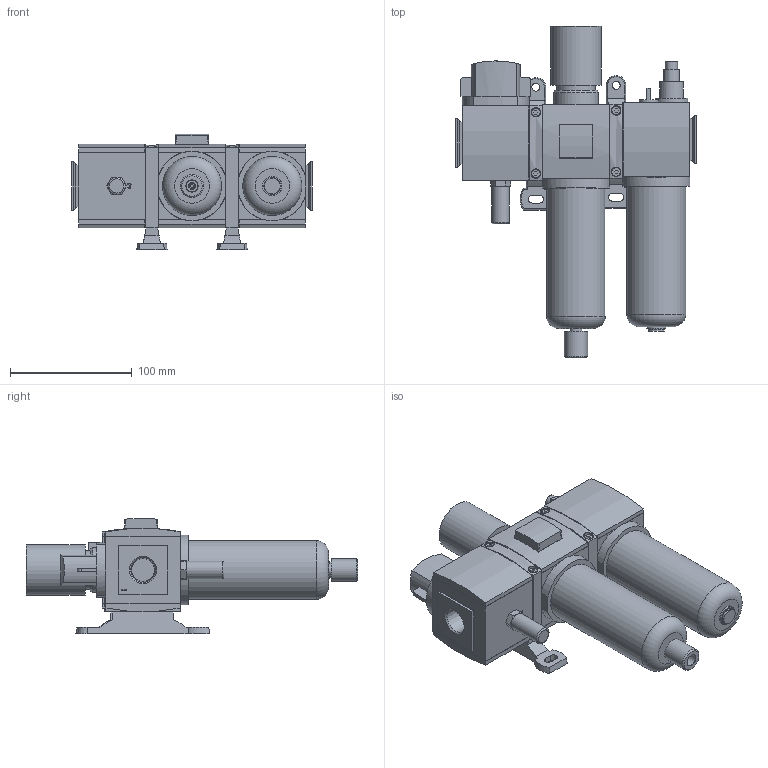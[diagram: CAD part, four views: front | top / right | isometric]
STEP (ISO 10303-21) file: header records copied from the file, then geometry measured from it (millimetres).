
FILE_DESCRIPTION( ( 'STEP AP214' ), '1' );
FILE_NAME( 'p:/temp/worker_21/temp/exporttempdir_4728_236_BZJOl/format_0/12212020-140244_gen_20180.stp', '2020-02-12T13:21:45', ( '' ), ( '' ), ' ', 'PARTsolutions', ' ' );
FILE_SCHEMA( ( 'AUTOMOTIVE_DESIGN { 1 0 10303 214 1 1 1 1 }' ) );
Length unit declared in the file: millimetre
Products named in the file (16): 12212020-140244_gen_20180; _433433015-F--0-A00129L; _433441-002-SV-0; _437742-001-100; _M2MN_652; _G652ASLA0B00A00_LS; _433073-015-F-KA0010AD0L; _433894-001; _440508-001-STANDARD; _433441-001-R-H; _438047-009; _433441-001-R-0; _440511-008-P; _440512-002-N; _433456-015-F-KA00; _440512-001_plug
Assembly tree (20 placements, depth 2):
  12212020-140244_gen_20180
    _433433015-F--0-A00129L
    _433441-002-SV-0  x4
    _437742-001-100
    _M2MN_652
    _G652ASLA0B00A00_LS  x2
    _433073-015-F-KA0010AD0L
    _433894-001
    _440508-001-STANDARD
    _433441-001-R-H
    _438047-009
    _433441-001-R-0
    _440511-008-P  x2
    _440512-002-N
    _433456-015-F-KA00
    _440512-001_plug
Bounding box: 198 x 272.52 x 94.91 mm (x, y, z)
Volume: 1411031.2 mm3; surface area: 236089.9 mm2
Topology: 20 solids, 20 shells, 742 faces, 1784 edges, 1157 vertices
Faces by surface type: plane 584, cylinder 95, cone 53, torus 10
Full cylindrical faces by diameter (mm): 2.8 x2, 5 x1, 5.6 x4, 6.3 x4, 6.5 x2, 7 x4, 7.8 x4, 8.25 x4, 9.728 x2, 10 x5, 13 x1, 13.5 x1, 14.224 x1, 15.1 x1, 15.875 x1, 16 x1, 19 x1, 19.2 x1, 19.4 x1, 27 x1, 28.5 x1, 31.6 x1, 37 x1, 41.845 x1, 48.5 x2
Entity records: 24454 total; most frequent: CARTESIAN_POINT 3716, DIRECTION 3056, ORIENTED_EDGE 3004, EDGE_CURVE 1502, LINE 1208, VECTOR 1208, VERTEX_POINT 1020, AXIS2_PLACEMENT_3D 924
